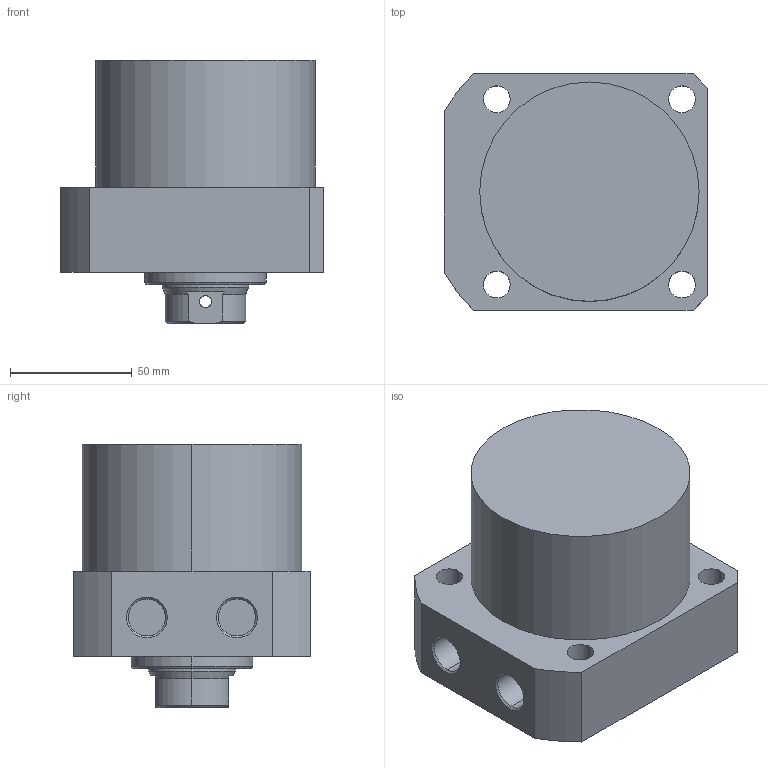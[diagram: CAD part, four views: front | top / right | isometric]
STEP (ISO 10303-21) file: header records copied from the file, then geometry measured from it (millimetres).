
FILE_DESCRIPTION (( 'STEP AP203' ), '1' );
FILE_NAME ('CLLR-090CB-030.STEP', '2019-12-19T02:28:59', ( '' ), ( '' ), 'SwSTEP 2.0', 'SolidWorks 2015', '' );
FILE_SCHEMA (( 'CONFIG_CONTROL_DESIGN' ));
Length unit declared in the file: millimetre
Products named in the file (1): CLLR-090CB-030
Bounding box: 108 x 97 x 108 mm (x, y, z)
Volume: 680823.9 mm3; surface area: 59888.3 mm2
Topology: 1 solids, 1 shells, 67 faces, 161 edges, 102 vertices
Faces by surface type: cylinder 33, plane 19, cone 15
Entity records: 2179 total; most frequent: CARTESIAN_POINT 477, DIRECTION 360, ORIENTED_EDGE 318, EDGE_CURVE 159, AXIS2_PLACEMENT_3D 145, VERTEX_POINT 102, EDGE_LOOP 87, CIRCLE 77
